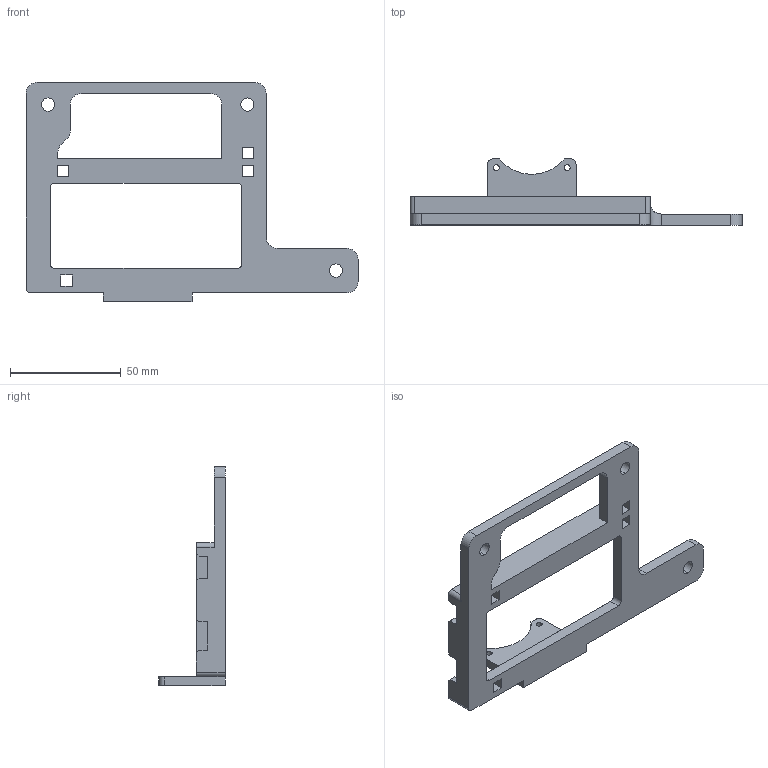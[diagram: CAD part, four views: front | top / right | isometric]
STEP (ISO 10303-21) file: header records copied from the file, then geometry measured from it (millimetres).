
FILE_DESCRIPTION (( 'STEP AP203' ), '1' );
FILE_NAME ('RAMPS CONTROLLER MOUNT.STEP', '2012-08-20T19:29:35', ( '' ), ( '' ), 'SwSTEP 2.0', 'SolidWorks 2012', '' );
FILE_SCHEMA (( 'CONFIG_CONTROL_DESIGN' ));
Length unit declared in the file: millimetre
Products named in the file (1): RAMPS CONTROLLER MOUNT
Bounding box: 150 x 30 x 99 mm (x, y, z)
Volume: 40401 mm3; surface area: 23062.6 mm2
Topology: 1 solids, 1 shells, 95 faces, 291 edges, 193 vertices
Faces by surface type: plane 65, cylinder 30
Entity records: 3360 total; most frequent: CARTESIAN_POINT 583, ORIENTED_EDGE 582, DIRECTION 540, EDGE_CURVE 291, LINE 232, VECTOR 232, VERTEX_POINT 193, AXIS2_PLACEMENT_3D 154
